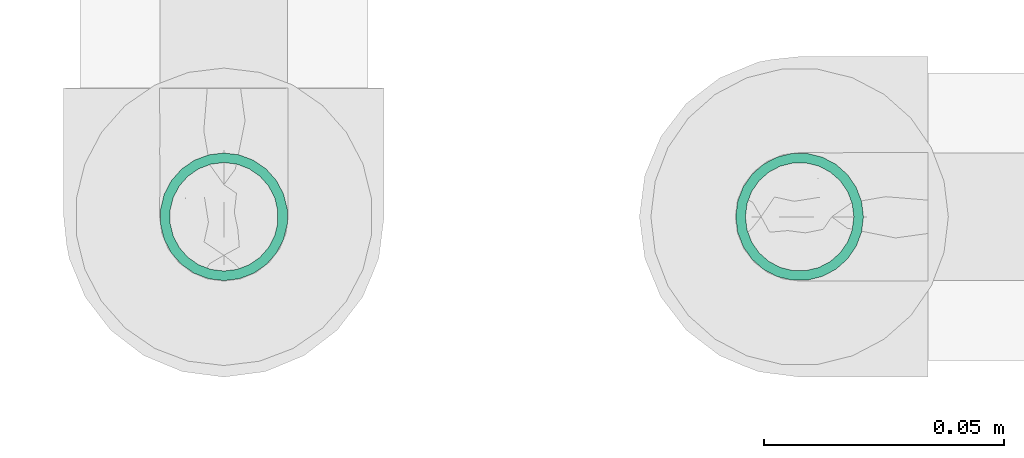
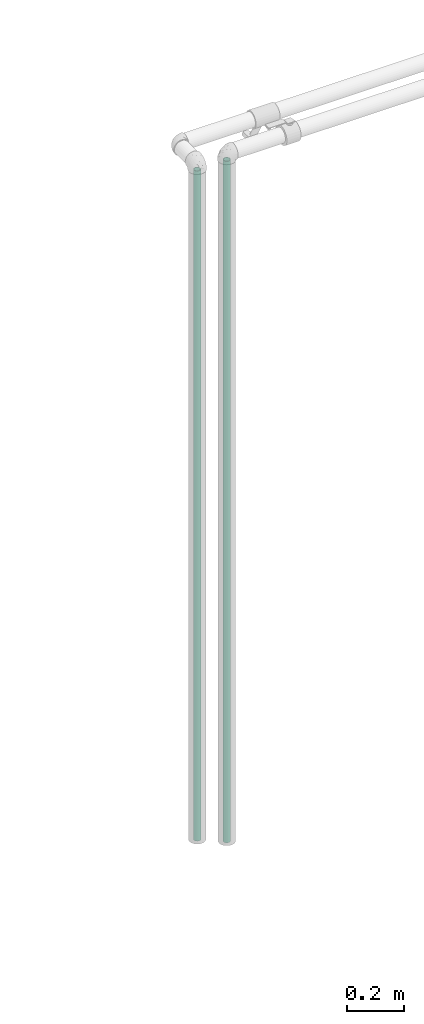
# One storey, part 31 of 108: 2 flow segments.
"""IFC2X3 building model written with IfcOpenShell, lengths in millimetres."""

from ifc_helpers import new_model, entity, si_unit, converted_unit, derived_unit, direction, frame, origin_with_axes, origin_2d_with_axis, place, context, subcontext, project, spatial, hollow_circle, extrude, source, transform, mapped, type_object, element, save


model = new_model("IFC2X3")

# Units and contexts
model_context = context("Model", 3, precision=0.01, world=frame((0.0, 4.29681676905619e-09, 0.0)), true_north=direction((4.01073788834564e-13, 1.0)))
plan_context = context("Plan", 3, precision=0.01, world=frame((0.0, 4.29681676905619e-09, 0.0)), true_north=direction((4.01073788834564e-13, 1.0)))
body_context = subcontext(model_context, "Body", "Model", "MODEL_VIEW")
ifc_project = project(units=[converted_unit("PLANEANGLEUNIT", "DEGREE", entity("IfcPositiveLengthMeasure", 0.0174532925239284), si_unit("PLANEANGLEUNIT", "RADIAN"), dimensions=[0, 0, 0, 0, 0, 0, 0]), si_unit("AREAUNIT", "SQUARE_METRE"), si_unit("LENGTHUNIT", "METRE", prefix="MILLI"), si_unit("MASSUNIT", "GRAM", prefix="KILO"), si_unit("POWERUNIT", "WATT"), si_unit("PRESSUREUNIT", "PASCAL", prefix="KILO"), si_unit("FORCEUNIT", "NEWTON", prefix="KILO"), si_unit("ELECTRICVOLTAGEUNIT", "VOLT"), si_unit("ELECTRICCURRENTUNIT", "AMPERE"), si_unit("THERMODYNAMICTEMPERATUREUNIT", "DEGREE_CELSIUS"), si_unit("TIMEUNIT", "SECOND"), si_unit("VOLUMEUNIT", "CUBIC_METRE"), derived_unit("LINEARVELOCITYUNIT", [(si_unit("LENGTHUNIT", "METRE"), 1), (si_unit("TIMEUNIT", "SECOND"), -1)]), derived_unit("VOLUMETRICFLOWRATEUNIT", [(si_unit("VOLUMEUNIT", "CUBIC_METRE"), 1), (si_unit("TIMEUNIT", "SECOND"), -1)]), derived_unit("THERMALTRANSMITTANCEUNIT", [(si_unit("POWERUNIT", "WATT"), 1), (si_unit("THERMODYNAMICTEMPERATUREUNIT", "KELVIN"), -1), (si_unit("AREAUNIT", "SQUARE_METRE"), -1)]), derived_unit("SOUNDPRESSUREUNIT", [(si_unit("PRESSUREUNIT", "PASCAL"), 1)])], contexts=[model_context, plan_context])

# Site, building, storey
site_placement = place(None, frame((0.0, -4.29681676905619e-09, 0.0), z_axis=(0.0, 0.0, 1.0), x_axis=(1.0, 0.0, 0.0)))
site = spatial("IfcSite", under=ifc_project, at=site_placement, CompositionType="ELEMENT")
building_placement = place(site_placement, frame((0.0, 4.29681676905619e-09, 0.0), z_axis=(0.0, 0.0, 1.0), x_axis=(1.0, 0.0, 0.0)))
building = spatial("IfcBuilding", under=site, at=building_placement, Name="mc-building", CompositionType="ELEMENT")
storey_placement = place(building_placement, frame((0.0, 0.0, 210200.0), z_axis=(0.0, 0.0, 1.0), x_axis=(1.0, 0.0, 0.0)))
storey = spatial("IfcBuildingStorey", under=building, at=storey_placement, Name="Nivå F - 0,7 m", CompositionType="ELEMENT", Elevation=210200.0)

# Flow segments
pipe_segment_type = type_object("IfcPipeSegmentType", Name="Stålrør normaltykke", PredefinedType="RIGIDSEGMENT")
shared_shape_1 = source(origin_with_axes(), body_context, "Body", "SweptSolid", [
    extrude(hollow_circle(Radius=13.3, WallThickness=2.0, at=origin_2d_with_axis()), frame((0.0, 0.0, 0.0), z_axis=(1.0, 0.0, 0.0), x_axis=(0.0, 1.0, 0.0)), (0.0, 0.0, 1.0), 2871.9),
])
flow_segment_1_placement = place(storey_placement, frame((343548.98104, 460323.91341, -353.200000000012), z_axis=(1.0, 0.0, 0.0), x_axis=(0.0, 0.0, 1.0)))
element("IfcFlowSegment", 1, at=flow_segment_1_placement, inside=storey, type_object=pipe_segment_type, Name="Stålrør normaltykke", context=body_context, shape_type="MappedRepresentation", body=[
    mapped(shared_shape_1, transform((0.0, 0.0, 0.0), scale=1.0)),
])
shared_shape_2 = source(origin_with_axes(), body_context, "Body", "SweptSolid", [
    extrude(hollow_circle(Radius=13.3, WallThickness=2.0, at=origin_2d_with_axis()), frame((0.0, 0.0, 0.0), z_axis=(1.0, 0.0, 0.0), x_axis=(0.0, 1.0, 0.0)), (0.0, 0.0, 1.0), 2920.7),
])
flow_segment_2_placement = place(storey_placement, frame((343668.98104, 460323.91341, -402.070570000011), z_axis=(0.0, -1.0, 0.0), x_axis=(0.0, 0.0, 1.0)))
element("IfcFlowSegment", 2, at=flow_segment_2_placement, inside=storey, type_object=pipe_segment_type, Name="Stålrør normaltykke", context=body_context, shape_type="MappedRepresentation", body=[
    mapped(shared_shape_2, transform((0.0, 0.0, 0.0), scale=1.0)),
])

save(model, "model.ifc")
